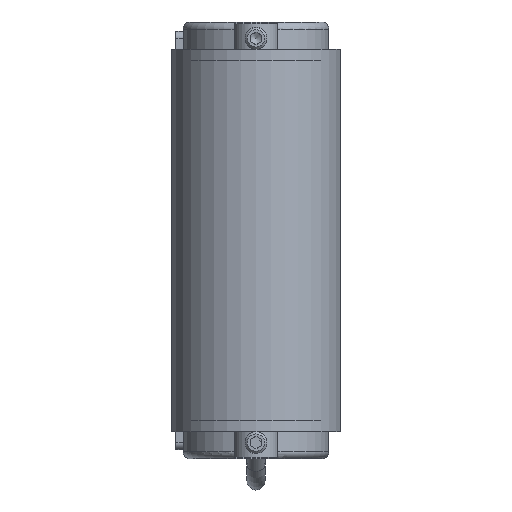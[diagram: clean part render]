
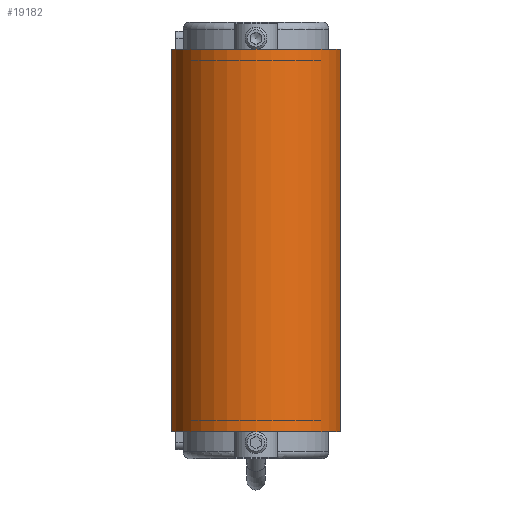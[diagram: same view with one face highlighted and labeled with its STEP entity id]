
A CAD part, front view. The second image highlights one B-rep face of the part: STEP entity #19182.
In plain terms, the highlighted cylindrical face has radius 23.3 mm (diameter 46.6 mm), a partial arc.
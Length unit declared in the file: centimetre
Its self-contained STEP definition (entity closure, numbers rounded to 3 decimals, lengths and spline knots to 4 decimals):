
#553=CYLINDRICAL_SURFACE('',#20492,2.33);
#1159=CIRCLE('',#20487,2.33);
#1162=CIRCLE('',#20493,2.33);
#1974=FACE_OUTER_BOUND('',#3017,.T.);
#3017=EDGE_LOOP('',(#12968,#12969,#12970,#12971));
#4341=LINE('',#28229,#5898);
#4342=LINE('',#28233,#5899);
#5898=VECTOR('',#23088,1.);
#5899=VECTOR('',#23093,1.);
#7615=VERTEX_POINT('',#28212);
#7616=VERTEX_POINT('',#28213);
#7621=VERTEX_POINT('',#28227);
#7622=VERTEX_POINT('',#28231);
#9697=EDGE_CURVE('',#7615,#7616,#1159,.T.);
#9705=EDGE_CURVE('',#7621,#7616,#4341,.T.);
#9706=EDGE_CURVE('',#7621,#7622,#1162,.T.);
#9707=EDGE_CURVE('',#7615,#7622,#4342,.T.);
#12968=ORIENTED_EDGE('',*,*,#9706,.T.);
#12969=ORIENTED_EDGE('',*,*,#9707,.F.);
#12970=ORIENTED_EDGE('',*,*,#9697,.T.);
#12971=ORIENTED_EDGE('',*,*,#9705,.F.);
#19182=ADVANCED_FACE('',(#1974),#553,.T.);
#20487=AXIS2_PLACEMENT_3D('',#28214,#23073,#23074);
#20492=AXIS2_PLACEMENT_3D('',#28230,#23089,#23090);
#20493=AXIS2_PLACEMENT_3D('',#28232,#23091,#23092);
#23073=DIRECTION('center_axis',(0.,0.,
-1.));
#23074=DIRECTION('ref_axis',(-1.,0.,0.));
#23088=DIRECTION('',(0.,0.,1.));
#23089=DIRECTION('center_axis',(0.,0.,
-1.));
#23090=DIRECTION('ref_axis',(-1.,0.,0.));
#23091=DIRECTION('center_axis',(0.,0.,
1.));
#23092=DIRECTION('ref_axis',(-1.,0.,0.));
#23093=DIRECTION('',(0.,0.,-1.));
#28212=CARTESIAN_POINT('',(2.33,-37.,5.25));
#28213=CARTESIAN_POINT('',(-2.33,-37.,5.25));
#28214=CARTESIAN_POINT('Origin',(0.,-37.,5.25));
#28227=CARTESIAN_POINT('',(-2.33,-37.,-5.25));
#28229=CARTESIAN_POINT('',(-2.33,-37.,0.));
#28230=CARTESIAN_POINT('Origin',(0.,-37.,0.));
#28231=CARTESIAN_POINT('',(2.33,-37.,-5.25));
#28232=CARTESIAN_POINT('Origin',(0.,-37.,-5.25));
#28233=CARTESIAN_POINT('',(2.33,-37.,0.));
